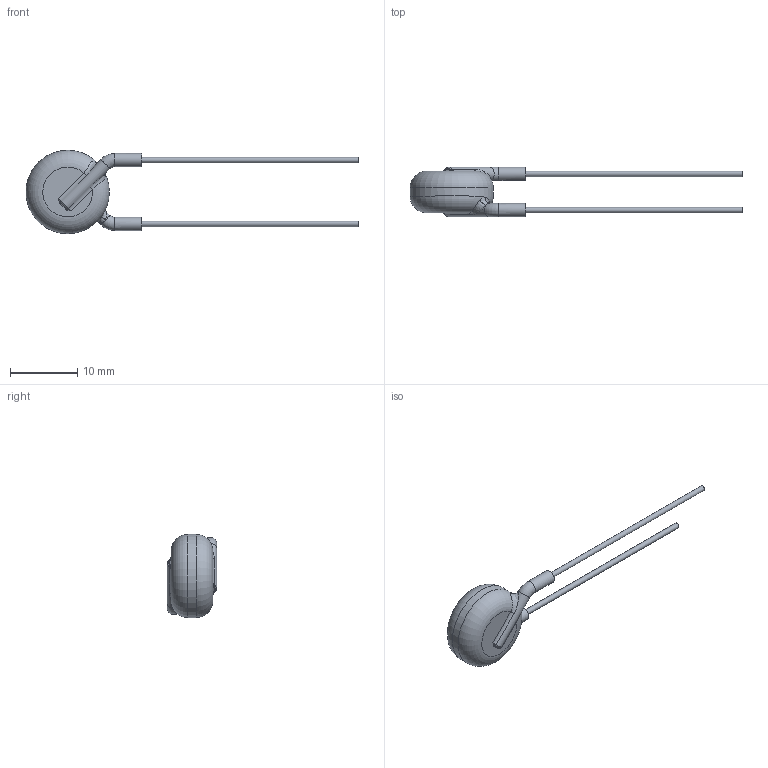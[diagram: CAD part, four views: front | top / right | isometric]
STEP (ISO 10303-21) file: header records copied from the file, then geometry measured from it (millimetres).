
FILE_DESCRIPTION((''),'2;1');
FILE_NAME('I:\Marketing\M6t1\3D-Models\Zchng-Werk-3\Upload for homepage\Ceramite\T3M-10kV\615R100GATT25\615R100GATT25.stp','2015-08-28T09:44:40',(''),(''),'Autodesk Inventor 2013','Autodesk Inventor 2013','');
FILE_SCHEMA(('AUTOMOTIVE_DESIGN { 1 0 10303 214 1 1 1 1 }'));
Length unit declared in the file: centimetre
Products named in the file (1): 615R100GATT25
Bounding box: 49.4 x 7.37 x 12.4 mm (x, y, z)
Surface area: 652 mm2 (no closed solid volume)
Topology: 0 solids, 1 shells, 45 faces, 104 edges, 58 vertices
Faces by surface type: bspline 14, cylinder 13, torus 10, plane 8
Full cylindrical faces by diameter (mm): 0.81 x2, 1.97 x2, 12.4 x1
Entity records: 1644 total; most frequent: CARTESIAN_POINT 729, ORIENTED_EDGE 164, DIRECTION 160, EDGE_CURVE 82, AXIS2_PLACEMENT_3D 74, EDGE_LOOP 56, VERTEX_POINT 50, STYLED_ITEM 46
